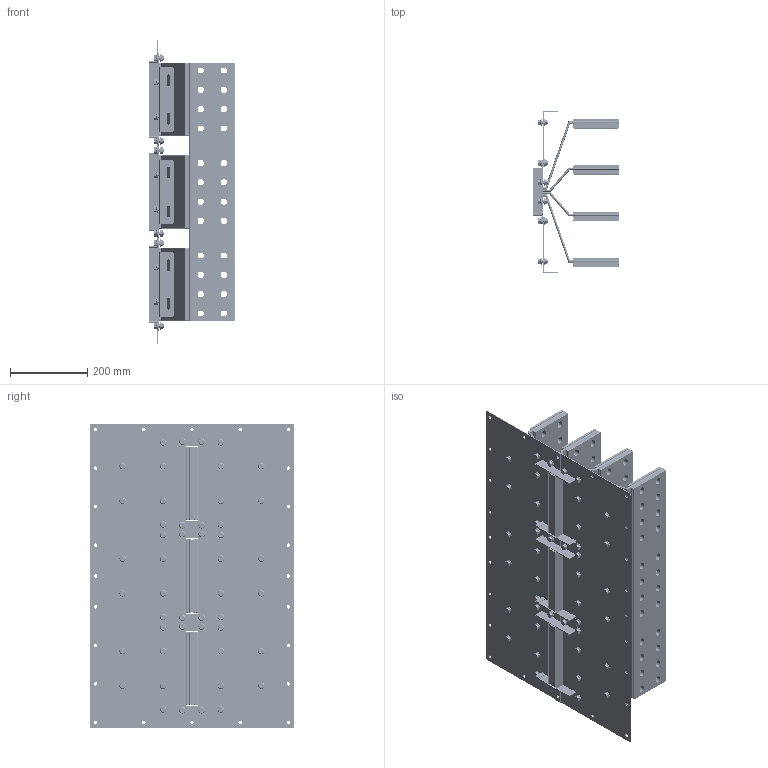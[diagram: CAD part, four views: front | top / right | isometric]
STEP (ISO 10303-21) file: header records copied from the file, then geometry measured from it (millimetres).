
FILE_DESCRIPTION(('CATIA V5 STEP','CAx-IF Rec.Pracs.--- Model Styling and Organization---1.5--- 2016-08-15','CAx-IF Rec.Pracs.---Supplemental Geometry---1.0---2011-11-01','CAx-IF Rec.Pracs.--- Composite Materials ---1.1---2010-07-15'),'2;1');
FILE_NAME('K:\COSCN 2011\32372311_RiduzioneSezioniBarre\03_Studio\__Modelli semplificati\XCP_UB semplificati per studi\XCP-HP_UB_4C_Pe_STD_Assieme\Cu\XCP-HP_UB_4C_Pe_T_Assieme - 6300A Cu\XCP-HP_UB_4C_Pe_T_Assieme - 6300A Cu.stp','2025-05-12T12:13:22+00:00',('Utente Bticino'),('Bticino S.p.A.'),'CATIA Version 5-6 Release 2020 SP5','CATIA V5 STEP AP214 v2','none');
FILE_SCHEMA(('AUTOMOTIVE_DESIGN { 1 0 10303 214 1 1 1 1 }'));
Length unit declared in the file: millimetre
Products named in the file (7): XCP-HP_UB_4C_Pe_T_Assieme - 6300A Cu; XCP-HP_UB_4C_Pe_T_Lamiere_6300A Cu; XCP-HP_UB_4C_Pe_T_PaccoBarre_6300A Cu; XCP-HP_UB_4C_Pe_T - 6300A Cu_Bandelle parallelo; Ass Vite+dado M8; Steel hex flanged SCREW M12x16; Steel hex flanged NUT M8
Assembly tree (55 placements, depth 3):
  XCP-HP_UB_4C_Pe_T_Assieme - 6300A Cu
    XCP-HP_UB_4C_Pe_T_Lamiere_6300A Cu
    XCP-HP_UB_4C_Pe_T_PaccoBarre_6300A Cu  x3
    XCP-HP_UB_4C_Pe_T - 6300A Cu_Bandelle parallelo
    Ass Vite+dado M8  x48
      Steel hex flanged SCREW M12x16
      Steel hex flanged NUT M8
Bounding box: 225 x 530 x 790 mm (x, y, z)
Volume: 10326061.6 mm3; surface area: 4303775.3 mm2
Topology: 134 solids, 134 shells, 4400 faces, 11316 edges, 7280 vertices
Faces by surface type: plane 1940, cylinder 1596, cone 384, bspline 384, torus 96
Entity records: 57595 total; most frequent: CARTESIAN_POINT 10920, ORIENTED_EDGE 10684, DIRECTION 7168, EDGE_CURVE 5342, VERTEX_POINT 3538, VECTOR 3400, LINE 3400, AXIS2_PLACEMENT_3D 2822
